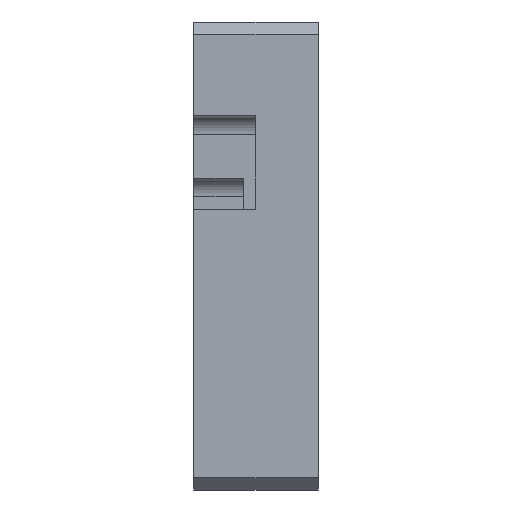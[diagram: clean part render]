
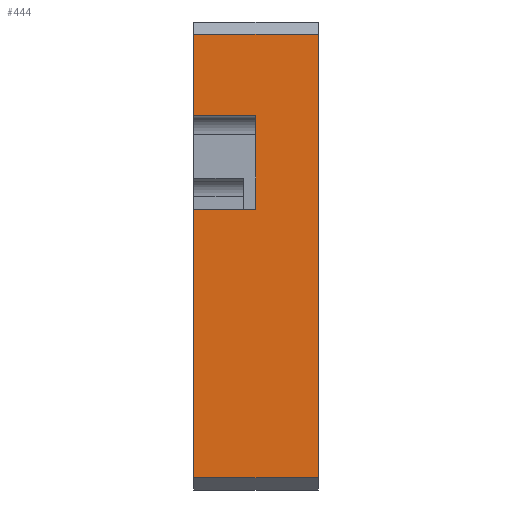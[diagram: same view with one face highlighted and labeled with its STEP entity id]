
A CAD part, left-side view. The second image highlights one B-rep face of the part: STEP entity #444.
In plain terms, the highlighted planar face has unit normal (-1, 0, 0).
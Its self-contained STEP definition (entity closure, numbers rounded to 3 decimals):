
#42 = DIRECTION ( 'NONE',  ( 0., 0., -1. ) ) ;
#54 = CARTESIAN_POINT ( 'NONE',  ( -37.5, 0., 37.5 ) ) ;
#90 = CARTESIAN_POINT ( 'NONE',  ( -37.5, 20., -35.5 ) ) ;
#92 = CARTESIAN_POINT ( 'NONE',  ( -37.5, 10., 22.5 ) ) ;
#100 = ORIENTED_EDGE ( 'NONE', *, *, #1335, .T. ) ;
#120 = CARTESIAN_POINT ( 'NONE',  ( -37.5, 5., 7.5 ) ) ;
#189 = ORIENTED_EDGE ( 'NONE', *, *, #1947, .T. ) ;
#237 = EDGE_CURVE ( 'NONE', #719, #549, #1750, .T. ) ;
#271 = VECTOR ( 'NONE', #833, 1000. ) ;
#272 = VECTOR ( 'NONE', #915, 1000. ) ;
#414 = CARTESIAN_POINT ( 'NONE',  ( -37.5, 20., 22.5 ) ) ;
#444 = ADVANCED_FACE ( 'NONE', ( #2230 ), #1370, .T. ) ;
#461 = EDGE_LOOP ( 'NONE', ( #671, #2140, #1434, #189, #1137, #100, #1693, #820 ) ) ;
#549 = VERTEX_POINT ( 'NONE', #92 ) ;
#650 = CARTESIAN_POINT ( 'NONE',  ( -37.5, 5., 22.5 ) ) ;
#671 = ORIENTED_EDGE ( 'NONE', *, *, #237, .F. ) ;
#688 = CARTESIAN_POINT ( 'NONE',  ( -37.5, 0., -35.5 ) ) ;
#698 = LINE ( 'NONE', #1532, #891 ) ;
#719 = VERTEX_POINT ( 'NONE', #1192 ) ;
#763 = DIRECTION ( 'NONE',  ( 0., 0., 1. ) ) ;
#820 = ORIENTED_EDGE ( 'NONE', *, *, #1849, .F. ) ;
#833 = DIRECTION ( 'NONE',  ( 0., 1., 0. ) ) ;
#858 = LINE ( 'NONE', #650, #2300 ) ;
#871 = VERTEX_POINT ( 'NONE', #414 ) ;
#891 = VECTOR ( 'NONE', #2357, 1000. ) ;
#915 = DIRECTION ( 'NONE',  ( 0., 1., 0. ) ) ;
#1088 = VECTOR ( 'NONE', #2361, 1000. ) ;
#1135 = LINE ( 'NONE', #2394, #1088 ) ;
#1137 = ORIENTED_EDGE ( 'NONE', *, *, #2457, .F. ) ;
#1192 = CARTESIAN_POINT ( 'NONE',  ( -37.5, 10., 7.5 ) ) ;
#1194 = VECTOR ( 'NONE', #2513, 1000. ) ;
#1199 = DIRECTION ( 'NONE',  ( -1., 0., 0. ) ) ;
#1245 = VERTEX_POINT ( 'NONE', #2243 ) ;
#1251 = CARTESIAN_POINT ( 'NONE',  ( -37.5, 20., 35.5 ) ) ;
#1311 = CARTESIAN_POINT ( 'NONE',  ( -37.5, 0., 35.5 ) ) ;
#1335 = EDGE_CURVE ( 'NONE', #1957, #1377, #1846, .T. ) ;
#1370 = PLANE ( 'NONE',  #2483 ) ;
#1377 = VERTEX_POINT ( 'NONE', #2059 ) ;
#1434 = ORIENTED_EDGE ( 'NONE', *, *, #2668, .T. ) ;
#1471 = LINE ( 'NONE', #2486, #1194 ) ;
#1532 = CARTESIAN_POINT ( 'NONE',  ( -37.5, 20., 37.5 ) ) ;
#1592 = VERTEX_POINT ( 'NONE', #90 ) ;
#1614 = CARTESIAN_POINT ( 'NONE',  ( -37.5, 20., 37.5 ) ) ;
#1693 = ORIENTED_EDGE ( 'NONE', *, *, #2581, .T. ) ;
#1750 = LINE ( 'NONE', #2566, #2627 ) ;
#1792 = LINE ( 'NONE', #120, #272 ) ;
#1846 = LINE ( 'NONE', #1251, #271 ) ;
#1849 = EDGE_CURVE ( 'NONE', #549, #871, #858, .T. ) ;
#1947 = EDGE_CURVE ( 'NONE', #1592, #1973, #1135, .T. ) ;
#1957 = VERTEX_POINT ( 'NONE', #1311 ) ;
#1968 = DIRECTION ( 'NONE',  ( 0., 0., 1. ) ) ;
#1973 = VERTEX_POINT ( 'NONE', #688 ) ;
#2059 = CARTESIAN_POINT ( 'NONE',  ( -37.5, 20., 35.5 ) ) ;
#2140 = ORIENTED_EDGE ( 'NONE', *, *, #2596, .T. ) ;
#2230 = FACE_OUTER_BOUND ( 'NONE', #461, .T. ) ;
#2243 = CARTESIAN_POINT ( 'NONE',  ( -37.5, 20., 7.5 ) ) ;
#2300 = VECTOR ( 'NONE', #2319, 1000. ) ;
#2319 = DIRECTION ( 'NONE',  ( 0., 1., 0. ) ) ;
#2357 = DIRECTION ( 'NONE',  ( 0., 0., -1. ) ) ;
#2361 = DIRECTION ( 'NONE',  ( 0., -1., 0. ) ) ;
#2394 = CARTESIAN_POINT ( 'NONE',  ( -37.5, 20., -35.5 ) ) ;
#2457 = EDGE_CURVE ( 'NONE', #1957, #1973, #2519, .T. ) ;
#2483 = AXIS2_PLACEMENT_3D ( 'NONE', #1614, #1199, #763 ) ;
#2486 = CARTESIAN_POINT ( 'NONE',  ( -37.5, 20., 37.5 ) ) ;
#2513 = DIRECTION ( 'NONE',  ( 0., 0., -1. ) ) ;
#2519 = LINE ( 'NONE', #54, #2625 ) ;
#2566 = CARTESIAN_POINT ( 'NONE',  ( -37.5, 10., 7.5 ) ) ;
#2581 = EDGE_CURVE ( 'NONE', #1377, #871, #698, .T. ) ;
#2596 = EDGE_CURVE ( 'NONE', #719, #1245, #1792, .T. ) ;
#2625 = VECTOR ( 'NONE', #42, 1000. ) ;
#2627 = VECTOR ( 'NONE', #1968, 1000. ) ;
#2668 = EDGE_CURVE ( 'NONE', #1245, #1592, #1471, .T. ) ;
